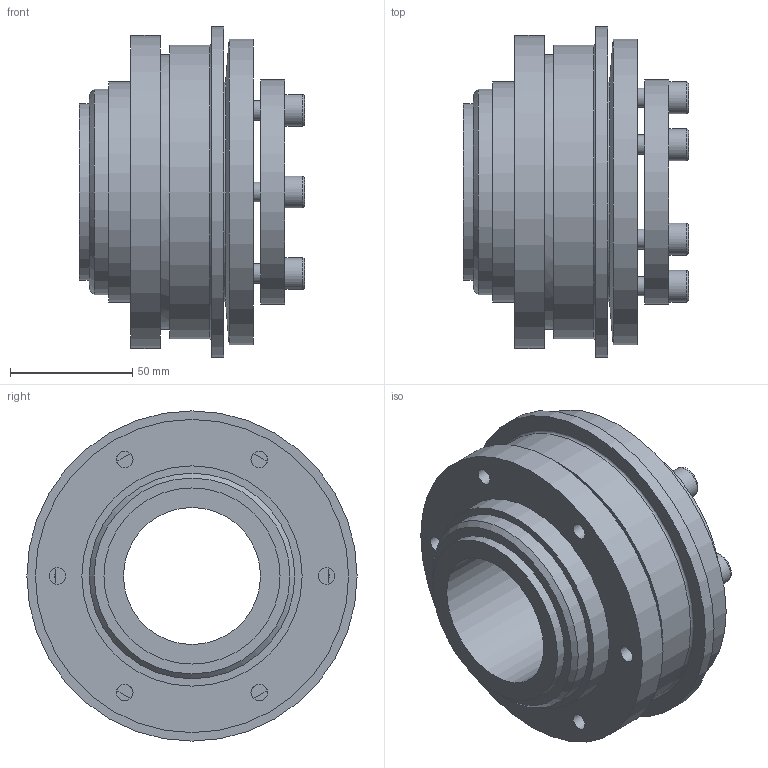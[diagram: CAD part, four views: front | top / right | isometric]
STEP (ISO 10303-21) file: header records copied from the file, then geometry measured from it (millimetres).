
FILE_DESCRIPTION(/* description */ ('STEP AP214'),/* implementation_level */ '2;1');
FILE_NAME(/* name */ 'C:\Diequa Files\DieQua Coupling\TH\STP\TH.500.84.WDG.#.stp',/* time_stamp */ '2019-02-13T16:13:43-06:00',/* author */ ('DiequaCAD'),/* organization */ (''),/* preprocessor_version */ 'ST-DEVELOPER v17.2',/* originating_system */ 'Autodesk Inventor 2019',/* authorisation */ ' ');
FILE_SCHEMA (('AUTOMOTIVE_DESIGN { 1 0 10303 214 3 1 1 }'));
Length unit declared in the file: millimetre
Products named in the file (1): TH.500.84.WDG.#
Bounding box: 92 x 135 x 135 mm (x, y, z)
Volume: 583728.2 mm3; surface area: 94960.1 mm2
Topology: 1 solids, 1 shells, 104 faces, 247 edges, 160 vertices
Faces by surface type: plane 65, cylinder 30, torus 7, cone 2
Full cylindrical faces by diameter (mm): 6.8 x6, 8 x6, 13 x6, 56 x2, 72 x1, 84 x1, 90 x2, 92 x1, 112 x1, 120 x1, 125 x1, 128 x1, 135 x1
Entity records: 3128 total; most frequent: DIRECTION 564, CARTESIAN_POINT 512, ORIENTED_EDGE 494, EDGE_CURVE 247, AXIS2_PLACEMENT_3D 212, VERTEX_POINT 160, EDGE_LOOP 145, LINE 140
